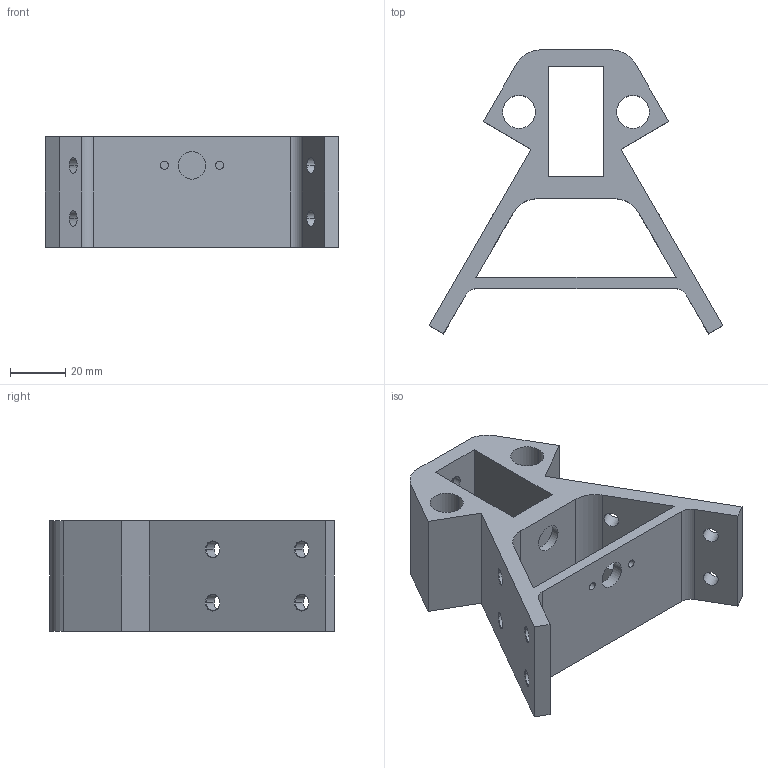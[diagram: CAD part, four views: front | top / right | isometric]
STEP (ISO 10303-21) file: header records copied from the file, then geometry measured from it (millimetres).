
FILE_DESCRIPTION (( 'STEP AP214' ), '1' );
FILE_NAME ('A100 Íàáîð êðåïëåíèé äëÿ äåëüòà êîðïóñà, îñíîâàíèå 40 ìì.STEP', '2019-04-26T10:00:49', ( 'Ïîëüçîâàòåëü Windows' ), ( '' ), 'SwSTEP 2.0', 'SolidWorks 2018', '' );
FILE_SCHEMA (( 'AUTOMOTIVE_DESIGN' ));
Length unit declared in the file: millimetre
Products named in the file (1): A100 Íàáîð êðåïëåíèé äëÿ äåëüòà êîðïóñà, îñíîâàíèå 40 ìì
Bounding box: 106.66 x 103.07 x 40 mm (x, y, z)
Volume: 100514.5 mm3; surface area: 37023.9 mm2
Topology: 1 solids, 1 shells, 87 faces, 226 edges, 144 vertices
Faces by surface type: cylinder 42, plane 25, cone 20
Entity records: 2830 total; most frequent: DIRECTION 506, CARTESIAN_POINT 458, ORIENTED_EDGE 452, EDGE_CURVE 226, AXIS2_PLACEMENT_3D 192, VERTEX_POINT 144, EDGE_LOOP 124, LINE 122
